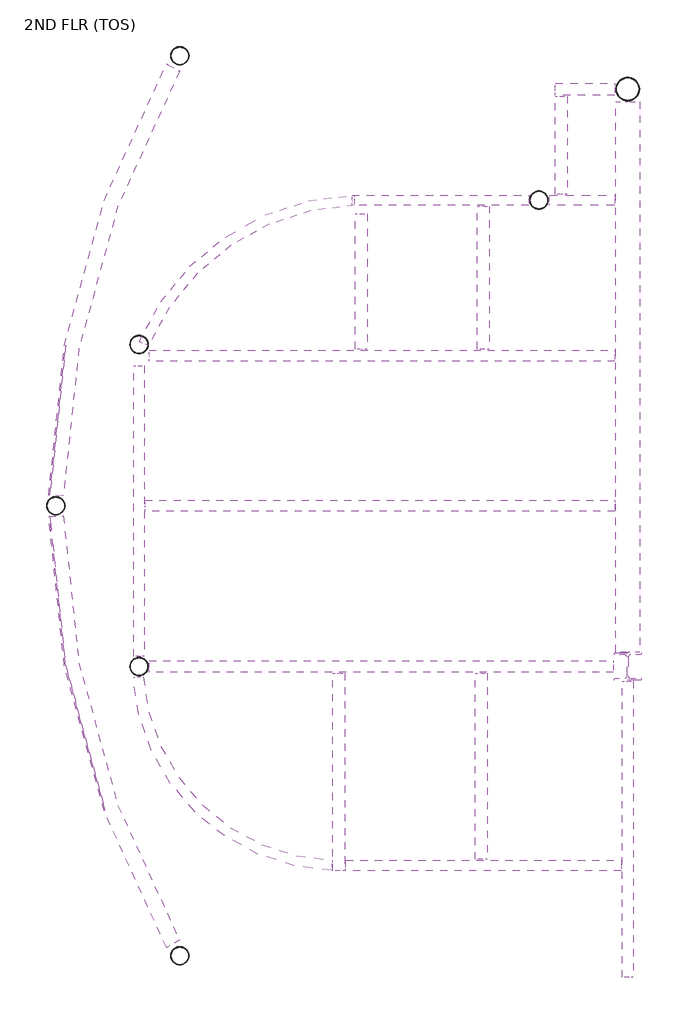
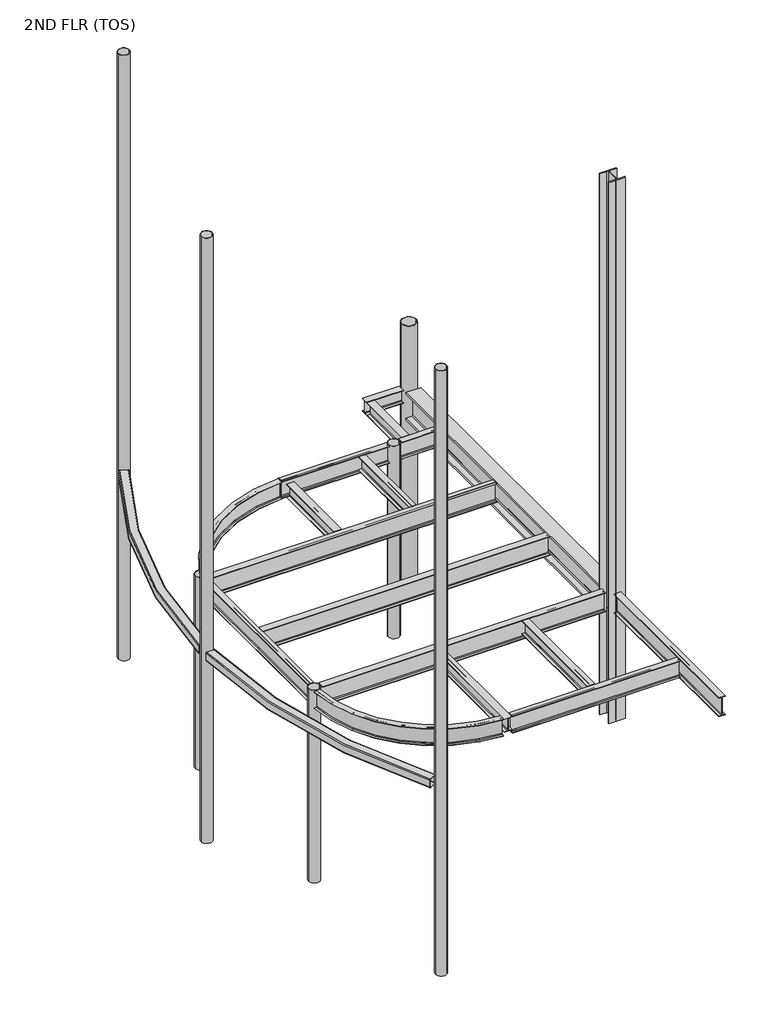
# One storey: 19 beams, 8 columns.
"""IFC4 building model written with IfcOpenShell, lengths in millimetres."""

from ifc_helpers import new_model, si_unit, point, frame, frame_2d, origin, place, context, project, spatial, circle_curve, trimmed, segment, composite_curve, outline, extrude, transform, mapped, element, save
from components import hss_hollow_structural_section_hss8x8x_375_3f7a212a, hss_hollow_structural_section_hss8x8x_375_31d8bada, w_wide_flange_w12x26_a858fbf7, w_wide_flange_w12x26_057477a8, w_wide_flange_w12x26_7fa1df94, w_wide_flange_w12x26_3993bfbb, w_wide_flange_w12x26_c8fad4fd, w_wide_flange_w12x26_563c1906, w_wide_flange_w16x26_e7c4c9f7, w_wide_flange_w16x26_f95649ea, w_wide_flange_w16x26_37e6e801, w_wide_flange_w16x26_3b22cc20, w_wide_flange_w16x26_7959fbc0, w_wide_flange_w16x26_af4b12ba, w_wide_flange_w18x35_15e55470, w_wide_flange_w18x35_87d37092, w_wide_flange_w18x35_9e390736, w_wide_flange_w18x35_de695320, w_wide_flange_w24x229_eebb78a0, hss_round_hollow_structural_section_column_hss10x0_500_838e436f, hss_round_hollow_structural_section_column_hss10x0_500_9719e917, hss_round_hollow_structural_section_column_hss12_750x0_500_3b49a283, w_wide_flange_column_w14x132_ff572278

model = new_model("IFC4")

# Units and contexts
model_context = context("Model", 3, world=origin())
ifc_project = project(units=[si_unit("LENGTHUNIT", "METRE", prefix="MILLI")], contexts=[model_context])

# Site, building, storey
site = spatial("IfcSite", under=ifc_project)
building = spatial("IfcBuilding", under=site)
storey = spatial("IfcBuildingStorey", under=building, Name="2ND FLR (TOS)", Elevation=5969.0)

# Beams
placement = place(None, origin())
hss_hollow_structural_section_hss8x8x_375_shape = hss_hollow_structural_section_hss8x8x_375_3f7a212a(model_context)
element("IfcBeam", 1, ObjectType="HSS-Hollow Structural Section : HSS8X8X.375", at=placement, inside=storey, context=model_context, shape_type="MappedRepresentation", body=[
    mapped(hss_hollow_structural_section_hss8x8x_375_shape, transform((2997.2, 41751.0130758, 10439.4), x_axis=(-0.5014171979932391, 0.8652056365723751, 0.0), y_axis=(-0.8652056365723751, -0.5014171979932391, 0.0), z_axis=(0.0, 0.0, 1.0))),
])
hss_hollow_structural_section_hss8x8x_375_2_shape = hss_hollow_structural_section_hss8x8x_375_31d8bada(model_context)
element("IfcBeam", 2, ObjectType="HSS-Hollow Structural Section : HSS8X8X.375", at=placement, inside=storey, context=model_context, shape_type="MappedRepresentation", body=[
    mapped(hss_hollow_structural_section_hss8x8x_375_2_shape, transform((2997.2, 54102.0, 10439.4), x_axis=(-0.5014171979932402, -0.8652056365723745, 0.0), y_axis=(0.8652056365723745, -0.5014171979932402, 0.0), z_axis=(0.0, 0.0, 1.0))),
])
w_wide_flange_w12x26_shape = w_wide_flange_w12x26_a858fbf7(model_context)
element("IfcBeam", 3, ObjectType="W-Wide Flange : W12X26", at=placement, inside=storey, context=model_context, shape_type="MappedRepresentation", body=[
    mapped(w_wide_flange_w12x26_shape, transform((7135.2247622, 44354.75, 10385.821875), x_axis=(0.0, 1.0, 0.0), y_axis=(-1.0, 0.0, 0.0), z_axis=(0.0, 0.0, 1.0))),
])
w_wide_flange_w12x26_2_shape = w_wide_flange_w12x26_057477a8(model_context)
element("IfcBeam", 4, ObjectType="W-Wide Flange : W12X26", at=placement, inside=storey, context=model_context, shape_type="MappedRepresentation", body=[
    mapped(w_wide_flange_w12x26_2_shape, transform((7162.8, 51054.0, 10385.821875), x_axis=(0.0, -1.0, 0.0), y_axis=(1.0, 0.0, 0.0), z_axis=(0.0, 0.0, 1.0))),
])
w_wide_flange_w12x26_3_shape = w_wide_flange_w12x26_7fa1df94(model_context)
element("IfcBeam", 5, ObjectType="W-Wide Flange : W12X26", at=placement, inside=storey, context=model_context, shape_type="MappedRepresentation", body=[
    mapped(w_wide_flange_w12x26_3_shape, transform((8686.8, 53644.8, 10385.821875), x_axis=(-1.0, 0.0, 0.0), y_axis=(0.0, -1.0, 0.0), z_axis=(0.0, 0.0, 1.0))),
])
w_wide_flange_w12x26_4_shape = w_wide_flange_w12x26_3993bfbb(model_context)
element("IfcBeam", 6, ObjectType="W-Wide Flange : W12X26", at=placement, inside=storey, context=model_context, shape_type="MappedRepresentation", body=[
    mapped(w_wide_flange_w12x26_4_shape, transform((5486.4, 51054.0, 10385.821875), x_axis=(0.0, -1.0, 0.0), y_axis=(1.0, 0.0, 0.0), z_axis=(0.0, 0.0, 1.0))),
])
w_wide_flange_w12x26_5_shape = w_wide_flange_w12x26_c8fad4fd(model_context)
element("IfcBeam", 7, ObjectType="W-Wide Flange : W12X26", at=placement, inside=storey, context=model_context, shape_type="MappedRepresentation", body=[
    mapped(w_wide_flange_w12x26_5_shape, transform((8229.6, 52882.8, 10385.821875), x_axis=(0.0, -1.0, 0.0), y_axis=(1.0, 0.0, 0.0), z_axis=(0.0, 0.0, 1.0))),
])
w_wide_flange_w12x26_6_shape = w_wide_flange_w12x26_563c1906(model_context)
element("IfcBeam", 8, ObjectType="W-Wide Flange : W12X26", at=placement, inside=storey, context=model_context, shape_type="MappedRepresentation", body=[
    mapped(w_wide_flange_w12x26_6_shape, transform((5181.6, 44354.75, 10385.821875), x_axis=(0.0, 1.0, 0.0), y_axis=(-1.0, 0.0, 0.0), z_axis=(0.0, 0.0, 1.0))),
])
w_wide_flange_w16x26_shape = w_wide_flange_w16x26_e7c4c9f7(model_context)
element("IfcBeam", 9, ObjectType="W-Wide Flange : W16X26", at=placement, inside=storey, context=model_context, shape_type="MappedRepresentation", body=[
    mapped(w_wide_flange_w16x26_shape, transform((2438.4, 47853.6, 10341.7191406), x_axis=(0.0, -1.0, 0.0), y_axis=(1.0, 0.0, 0.0), z_axis=(0.0, 0.0, 1.0))),
])
w_wide_flange_w16x26_2_shape = w_wide_flange_w16x26_f95649ea(model_context)
element("IfcBeam", 10, ObjectType="W-Wide Flange : W16X26", at=placement, inside=storey, context=model_context, shape_type="MappedRepresentation", body=[
    mapped(w_wide_flange_w16x26_2_shape, transform((5486.4, 52120.8, 10341.7191406), x_axis=(-1.0, 0.0, 0.0), y_axis=(0.0, -1.0, 0.0), z_axis=(0.0, 0.0, 1.0))),
])
w_wide_flange_w16x26_3_shape = w_wide_flange_w16x26_37e6e801(model_context)
element("IfcBeam", 11, ObjectType="W-Wide Flange : W16X26", at=placement, inside=storey, context=model_context, shape_type="MappedRepresentation", body=[
    mapped(w_wide_flange_w16x26_3_shape, transform((6705.6, 52120.8, 10341.7191406), x_axis=(-1.0, 0.0, 0.0), y_axis=(0.0, -1.0, 0.0), z_axis=(0.0, 0.0, 1.0))),
])
w_wide_flange_w16x26_4_shape = w_wide_flange_w16x26_3b22cc20(model_context)
element("IfcBeam", 12, ObjectType="W-Wide Flange : W16X26", at=placement, inside=storey, context=model_context, shape_type="MappedRepresentation", body=[
    mapped(w_wide_flange_w16x26_4_shape, transform((8534.4, 52120.8, 10341.7191406), x_axis=(1.0, 0.0, 0.0), y_axis=(0.0, 1.0, 0.0), z_axis=(0.0, 0.0, 1.0))),
])
w_wide_flange_w16x26_5_shape = w_wide_flange_w16x26_7959fbc0(model_context)
element("IfcBeam", 13, ObjectType="W-Wide Flange : W16X26", at=placement, inside=storey, context=model_context, shape_type="MappedRepresentation", body=[
    mapped(w_wide_flange_w16x26_5_shape, transform((5181.6, 42989.5, 10341.7191406), x_axis=(-1.0, 0.0, 0.0), y_axis=(0.0, -1.0, 0.0), z_axis=(0.0, 0.0, 1.0))),
])
w_wide_flange_w16x26_6_shape = w_wide_flange_w16x26_af4b12ba(model_context)
element("IfcBeam", 14, ObjectType="W-Wide Flange : W16X26", at=placement, inside=storey, context=model_context, shape_type="MappedRepresentation", body=[
    mapped(w_wide_flange_w16x26_6_shape, transform((7162.8, 42989.5, 10341.7191406), x_axis=(-1.0, 0.0, 0.0), y_axis=(0.0, -1.0, 0.0), z_axis=(0.0, 0.0, 1.0))),
])
w_wide_flange_w18x35_shape = w_wide_flange_w18x35_15e55470(model_context)
element("IfcBeam", 15, ObjectType="W-Wide Flange : W18X35", at=placement, inside=storey, context=model_context, shape_type="MappedRepresentation", body=[
    mapped(w_wide_flange_w18x35_shape, transform((5791.2, 47926.5065379, 10316.21), x_axis=(1.0, 0.0, 0.0), y_axis=(0.0, 1.0, 0.0), z_axis=(0.0, 0.0, 1.0))),
])
w_wide_flange_w18x35_2_shape = w_wide_flange_w18x35_87d37092(model_context)
element("IfcBeam", 16, ObjectType="W-Wide Flange : W18X35", at=placement, inside=storey, context=model_context, shape_type="MappedRepresentation", body=[
    mapped(w_wide_flange_w18x35_2_shape, transform((5791.2, 49987.2, 10316.21), x_axis=(1.0, 0.0, 0.0), y_axis=(0.0, 1.0, 0.0), z_axis=(0.0, 0.0, 1.0))),
])
w_wide_flange_w18x35_3_shape = w_wide_flange_w18x35_9e390736(model_context)
element("IfcBeam", 17, ObjectType="W-Wide Flange : W18X35", at=placement, inside=storey, context=model_context, shape_type="MappedRepresentation", body=[
    mapped(w_wide_flange_w18x35_3_shape, transform((5781.7662386, 45720.0, 10316.21), x_axis=(-1.0, 0.0, 0.0), y_axis=(0.0, -1.0, 0.0), z_axis=(0.0, 0.0, 1.0))),
])
w_wide_flange_w18x35_4_shape = w_wide_flange_w18x35_de695320(model_context)
element("IfcBeam", 18, ObjectType="W-Wide Flange : W18X35", at=placement, inside=storey, context=model_context, shape_type="MappedRepresentation", body=[
    mapped(w_wide_flange_w18x35_4_shape, transform((9144.0, 43586.532154, 10316.21), x_axis=(0.0, 1.0, 0.0), y_axis=(-1.0, 0.0, 0.0), z_axis=(0.0, 0.0, 1.0))),
])
w_wide_flange_w24x229_shape = w_wide_flange_w24x229_eebb78a0(model_context)
element("IfcBeam", 19, ObjectType="W-Wide Flange : W24X229", at=placement, inside=storey, context=model_context, shape_type="MappedRepresentation", body=[
    mapped(w_wide_flange_w24x229_shape, transform((9144.0, 49676.790023, 10210.8), x_axis=(0.0, -1.0, 0.0), y_axis=(1.0, 0.0, 0.0), z_axis=(0.0, 0.0, 1.0))),
])

# Columns
element("IfcColumn", 20, ObjectType="HSS-Round Hollow Structural Section-Column : HSS10X0.500", at=placement, inside=storey, context=model_context, shape_type="SweptSolid", body=[
    extrude(outline(composite_curve([segment(trimmed(circle_curve(frame_2d((2438.4, 50139.6)), 127.0), [point((2311.4, 50139.6))], [point((2565.4, 50139.6))], False, "CARTESIAN"), True, "CONTINUOUS"), segment(trimmed(circle_curve(frame_2d((2438.4, 50139.6)), 127.0), [point((2565.4, 50139.6))], [point((2311.4, 50139.6))], False, "CARTESIAN"), True, "CONTINUOUS")], self_intersect=False), holes=[composite_curve([segment(trimmed(circle_curve(frame_2d((2438.4, 50139.6)), 115.189), [point((2323.211, 50139.6))], [point((2553.589, 50139.6))], True, "CARTESIAN"), True, "CONTINUOUS"), segment(trimmed(circle_curve(frame_2d((2438.4, 50139.6)), 115.189), [point((2553.589, 50139.6))], [point((2323.211, 50139.6))], True, "CARTESIAN"), True, "CONTINUOUS")], self_intersect=False)]), frame((0.0, 0.0, 5969.0), z_axis=(0.0, 0.0, 1.0), x_axis=(1.0, 0.0, 0.0)), (0.0, 0.0, 1.0), 4572.0),
])
element("IfcColumn", 21, ObjectType="HSS-Round Hollow Structural Section-Column : HSS10X0.500", at=placement, inside=storey, context=model_context, shape_type="SweptSolid", body=[
    extrude(outline(composite_curve([segment(trimmed(circle_curve(frame_2d((2438.4, 45720.0)), 127.0), [point((2311.4, 45720.0))], [point((2565.4, 45720.0))], False, "CARTESIAN"), True, "CONTINUOUS"), segment(trimmed(circle_curve(frame_2d((2438.4, 45720.0)), 127.0), [point((2565.4, 45720.0))], [point((2311.4, 45720.0))], False, "CARTESIAN"), True, "CONTINUOUS")], self_intersect=False), holes=[composite_curve([segment(trimmed(circle_curve(frame_2d((2438.4, 45720.0)), 115.189), [point((2323.211, 45720.0))], [point((2553.589, 45720.0))], True, "CARTESIAN"), True, "CONTINUOUS"), segment(trimmed(circle_curve(frame_2d((2438.4, 45720.0)), 115.189), [point((2553.589, 45720.0))], [point((2323.211, 45720.0))], True, "CARTESIAN"), True, "CONTINUOUS")], self_intersect=False)]), frame((0.0, 0.0, 5969.0), z_axis=(0.0, 0.0, 1.0), x_axis=(1.0, 0.0, 0.0)), (0.0, 0.0, 1.0), 4572.0),
])
hss_round_hollow_structural_section_column_hss10x0_500_shape = hss_round_hollow_structural_section_column_hss10x0_500_838e436f(model_context)
element("IfcColumn", 22, ObjectType="HSS-Round Hollow Structural Section-Column : HSS10X0.500", at=placement, inside=storey, context=model_context, shape_type="MappedRepresentation", body=[
    mapped(hss_round_hollow_structural_section_column_hss10x0_500_shape, transform((7924.8, 52120.8, 0.0), x_axis=(1.0, 0.0, 0.0), y_axis=(0.0, 1.0, 0.0), z_axis=(0.0, 0.0, 1.0))),
])
hss_round_hollow_structural_section_column_hss10x0_500_2_shape = hss_round_hollow_structural_section_column_hss10x0_500_9719e917(model_context)
element("IfcColumn", 23, ObjectType="HSS-Round Hollow Structural Section-Column : HSS10X0.500", at=placement, inside=storey, context=model_context, shape_type="MappedRepresentation", body=[
    mapped(hss_round_hollow_structural_section_column_hss10x0_500_2_shape, transform((2997.2, 41751.0130758, 0.0), x_axis=(1.0, 0.0, 0.0), y_axis=(0.0, 1.0, 0.0), z_axis=(0.0, 0.0, 1.0))),
])
element("IfcColumn", 24, ObjectType="HSS-Round Hollow Structural Section-Column : HSS10X0.500", at=placement, inside=storey, context=model_context, shape_type="MappedRepresentation", body=[
    mapped(hss_round_hollow_structural_section_column_hss10x0_500_2_shape, transform((2997.2, 54102.0, 0.0), x_axis=(1.0, 0.0, 0.0), y_axis=(0.0, 1.0, 0.0), z_axis=(0.0, 0.0, 1.0))),
])
element("IfcColumn", 25, ObjectType="HSS-Round Hollow Structural Section-Column : HSS10X0.500", at=placement, inside=storey, context=model_context, shape_type="MappedRepresentation", body=[
    mapped(hss_round_hollow_structural_section_column_hss10x0_500_2_shape, transform((1295.4, 47926.5065379, 0.0), x_axis=(1.0, 0.0, 0.0), y_axis=(0.0, 1.0, 0.0), z_axis=(0.0, 0.0, 1.0))),
])
hss_round_hollow_structural_section_column_hss12_750x0_500_shape = hss_round_hollow_structural_section_column_hss12_750x0_500_3b49a283(model_context)
element("IfcColumn", 26, ObjectType="HSS-Round Hollow Structural Section-Column : HSS12.750X0.500", at=placement, inside=storey, context=model_context, shape_type="MappedRepresentation", body=[
    mapped(hss_round_hollow_structural_section_column_hss12_750x0_500_shape, transform((9144.0, 53644.8, 0.0), x_axis=(1.0, 0.0, 0.0), y_axis=(0.0, 1.0, 0.0), z_axis=(0.0, 0.0, 1.0))),
])
w_wide_flange_column_w14x132_shape = w_wide_flange_column_w14x132_ff572278(model_context)
element("IfcColumn", 27, ObjectType="W-Wide Flange-Column : W14X132", at=placement, inside=storey, context=model_context, shape_type="MappedRepresentation", body=[
    mapped(w_wide_flange_column_w14x132_shape, transform((9144.0, 45720.0, 0.0), x_axis=(1.0, 0.0, 0.0), y_axis=(0.0, 1.0, 0.0), z_axis=(0.0, 0.0, 1.0))),
])

save(model, "model.ifc")
